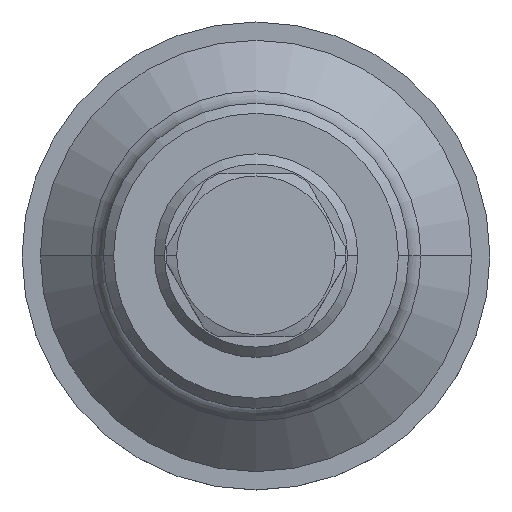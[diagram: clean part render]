
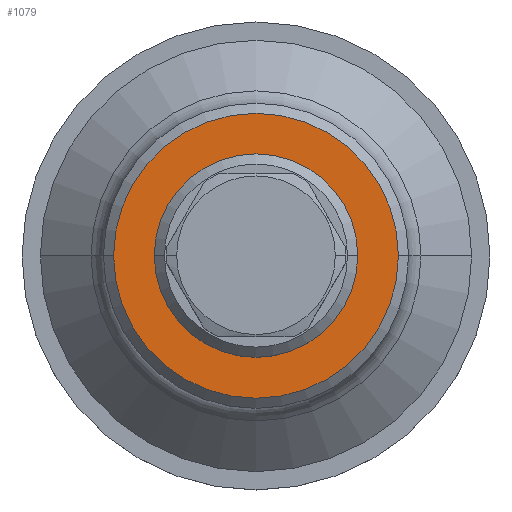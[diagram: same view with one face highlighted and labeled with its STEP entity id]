
A CAD part, top view. The second image highlights one B-rep face of the part: STEP entity #1079.
In plain terms, the highlighted planar face has unit normal (0, 0, 1).
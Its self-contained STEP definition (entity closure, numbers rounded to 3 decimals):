
#88 = FACE_OUTER_BOUND ( 'NONE', #176, .T. ) ;
#121 = AXIS2_PLACEMENT_3D ( 'NONE', #389, #3199, #319 ) ;
#176 = EDGE_LOOP ( 'NONE', ( #1613, #1736 ) ) ;
#251 = DIRECTION ( 'NONE',  ( 0., 0., 1. ) ) ;
#319 = DIRECTION ( 'NONE',  ( 1., 0., 0. ) ) ;
#389 = CARTESIAN_POINT ( 'NONE',  ( -17.261, -37.953, 14.903 ) ) ;
#465 = CARTESIAN_POINT ( 'NONE',  ( -10.261, -37.953, 14.903 ) ) ;
#666 = DIRECTION ( 'NONE',  ( 0., 0., 1. ) ) ;
#684 = EDGE_CURVE ( 'NONE', #2030, #2544, #1666, .T. ) ;
#1025 = EDGE_CURVE ( 'NONE', #2871, #3185, #3337, .T. ) ;
#1079 = ADVANCED_FACE ( 'NONE', ( #88, #3184 ), #1769, .T. ) ;
#1113 = EDGE_CURVE ( 'NONE', #3185, #2871, #1549, .T. ) ;
#1131 = EDGE_CURVE ( 'NONE', #2544, #2030, #1191, .T. ) ;
#1191 = CIRCLE ( 'NONE', #3277, 4.5 ) ;
#1387 = DIRECTION ( 'NONE',  ( 1., 0., 0. ) ) ;
#1549 = CIRCLE ( 'NONE', #3457, 7. ) ;
#1613 = ORIENTED_EDGE ( 'NONE', *, *, #1113, .T. ) ;
#1666 = CIRCLE ( 'NONE', #2024, 4.5 ) ;
#1736 = ORIENTED_EDGE ( 'NONE', *, *, #1025, .T. ) ;
#1769 = PLANE ( 'NONE',  #3517 ) ;
#1808 = DIRECTION ( 'NONE',  ( 1., 0., 0. ) ) ;
#1827 = DIRECTION ( 'NONE',  ( 1., 0., 0. ) ) ;
#1990 = ORIENTED_EDGE ( 'NONE', *, *, #684, .F. ) ;
#2024 = AXIS2_PLACEMENT_3D ( 'NONE', #2801, #251, #1387 ) ;
#2030 = VERTEX_POINT ( 'NONE', #2505 ) ;
#2141 = DIRECTION ( 'NONE',  ( 0., 0., 1. ) ) ;
#2434 = CARTESIAN_POINT ( 'NONE',  ( -17.261, -37.953, 14.903 ) ) ;
#2505 = CARTESIAN_POINT ( 'NONE',  ( -12.761, -37.953, 14.903 ) ) ;
#2544 = VERTEX_POINT ( 'NONE', #3320 ) ;
#2719 = CARTESIAN_POINT ( 'NONE',  ( -24.261, -37.953, 14.903 ) ) ;
#2750 = DIRECTION ( 'NONE',  ( 1., 0., 0. ) ) ;
#2801 = CARTESIAN_POINT ( 'NONE',  ( -17.261, -37.953, 14.903 ) ) ;
#2871 = VERTEX_POINT ( 'NONE', #465 ) ;
#2895 = ORIENTED_EDGE ( 'NONE', *, *, #1131, .F. ) ;
#3184 = FACE_BOUND ( 'NONE', #3195, .T. ) ;
#3185 = VERTEX_POINT ( 'NONE', #2719 ) ;
#3195 = EDGE_LOOP ( 'NONE', ( #1990, #2895 ) ) ;
#3199 = DIRECTION ( 'NONE',  ( 0., 0., 1. ) ) ;
#3219 = CARTESIAN_POINT ( 'NONE',  ( -12.761, -37.953, 14.903 ) ) ;
#3275 = DIRECTION ( 'NONE',  ( 0., 0., 1. ) ) ;
#3277 = AXIS2_PLACEMENT_3D ( 'NONE', #2434, #3275, #1827 ) ;
#3320 = CARTESIAN_POINT ( 'NONE',  ( -21.761, -37.953, 14.903 ) ) ;
#3337 = CIRCLE ( 'NONE', #121, 7. ) ;
#3457 = AXIS2_PLACEMENT_3D ( 'NONE', #3592, #2141, #2750 ) ;
#3517 = AXIS2_PLACEMENT_3D ( 'NONE', #3219, #666, #1808 ) ;
#3592 = CARTESIAN_POINT ( 'NONE',  ( -17.261, -37.953, 14.903 ) ) ;
